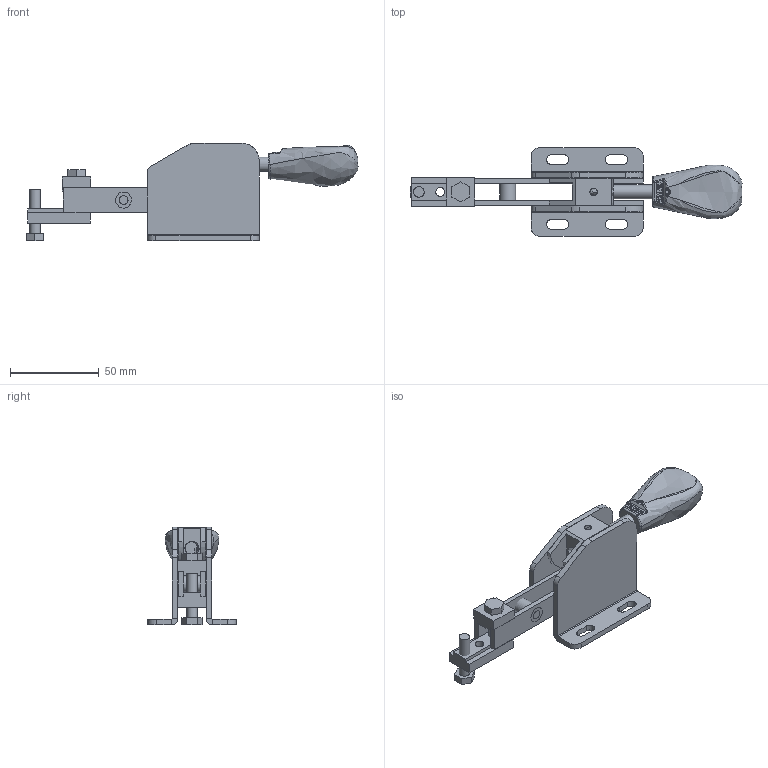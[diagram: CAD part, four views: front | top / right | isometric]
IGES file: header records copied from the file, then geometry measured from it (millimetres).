
Bounding box: 186.55 x 49.8 x 55 mm (x, y, z)
Volume: 69829.6 mm3; surface area: 40447.5 mm2
Topology: 12 solids, 12 shells, 253 faces, 651 edges, 426 vertices
Faces by surface type: bspline 253
